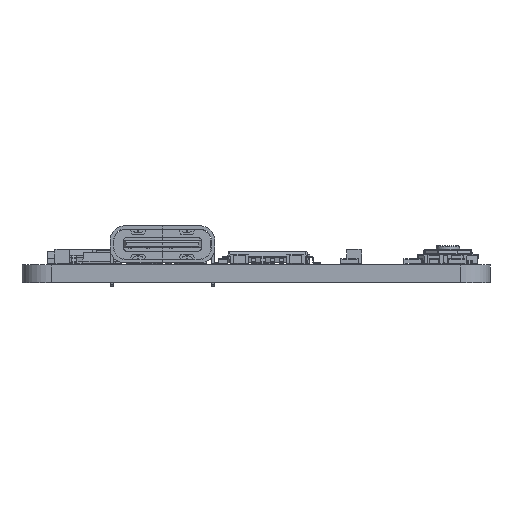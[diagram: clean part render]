
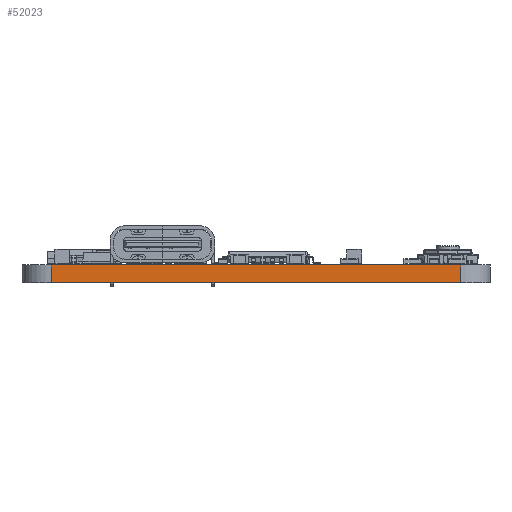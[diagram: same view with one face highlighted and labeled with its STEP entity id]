
A CAD part, left-side view. The second image highlights one B-rep face of the part: STEP entity #52023.
In plain terms, the highlighted planar face has unit normal (-1, 0, 0).
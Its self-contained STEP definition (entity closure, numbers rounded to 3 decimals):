
#51278 = VERTEX_POINT('',#51279);
#51279 = CARTESIAN_POINT('',(100.,-102.5,0.));
#51286 = EDGE_CURVE('',#51287,#51278,#51289,.T.);
#51287 = VERTEX_POINT('',#51288);
#51288 = CARTESIAN_POINT('',(100.,-137.5,0.));
#51289 = LINE('',#51290,#51291);
#51290 = CARTESIAN_POINT('',(100.,-137.5,0.));
#51291 = VECTOR('',#51292,1.);
#51292 = DIRECTION('',(0.,1.,0.));
#51637 = VERTEX_POINT('',#51638);
#51638 = CARTESIAN_POINT('',(100.,-102.5,1.51));
#51645 = EDGE_CURVE('',#51646,#51637,#51648,.T.);
#51646 = VERTEX_POINT('',#51647);
#51647 = CARTESIAN_POINT('',(100.,-137.5,1.51));
#51648 = LINE('',#51649,#51650);
#51649 = CARTESIAN_POINT('',(100.,-137.5,1.51));
#51650 = VECTOR('',#51651,1.);
#51651 = DIRECTION('',(0.,1.,0.));
#51993 = EDGE_CURVE('',#51278,#51637,#51994,.T.);
#51994 = LINE('',#51995,#51996);
#51995 = CARTESIAN_POINT('',(100.,-102.5,0.));
#51996 = VECTOR('',#51997,1.);
#51997 = DIRECTION('',(0.,0.,1.));
#52023 = ADVANCED_FACE('',(#52024),#52035,.T.);
#52024 = FACE_BOUND('',#52025,.T.);
#52025 = EDGE_LOOP('',(#52026,#52032,#52033,#52034));
#52026 = ORIENTED_EDGE('',*,*,#52027,.T.);
#52027 = EDGE_CURVE('',#51287,#51646,#52028,.T.);
#52028 = LINE('',#52029,#52030);
#52029 = CARTESIAN_POINT('',(100.,-137.5,0.));
#52030 = VECTOR('',#52031,1.);
#52031 = DIRECTION('',(0.,0.,1.));
#52032 = ORIENTED_EDGE('',*,*,#51645,.T.);
#52033 = ORIENTED_EDGE('',*,*,#51993,.F.);
#52034 = ORIENTED_EDGE('',*,*,#51286,.F.);
#52035 = PLANE('',#52036);
#52036 = AXIS2_PLACEMENT_3D('',#52037,#52038,#52039);
#52037 = CARTESIAN_POINT('',(100.,-137.5,0.));
#52038 = DIRECTION('',(-1.,0.,0.));
#52039 = DIRECTION('',(0.,1.,0.));
